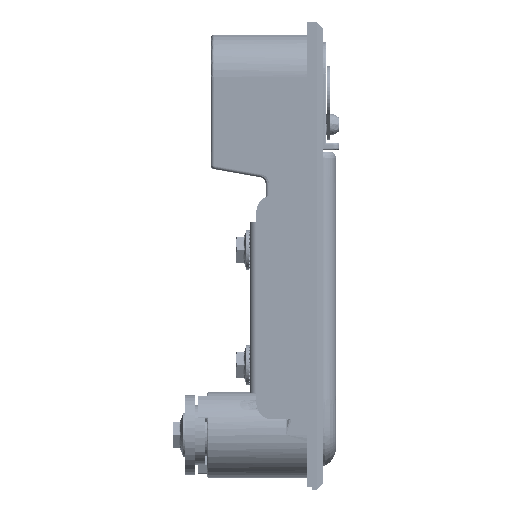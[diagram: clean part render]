
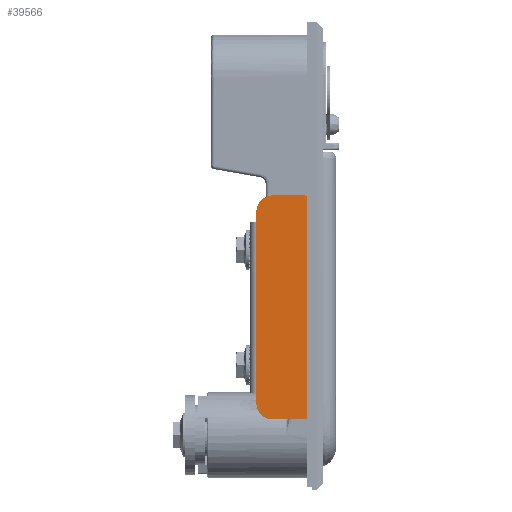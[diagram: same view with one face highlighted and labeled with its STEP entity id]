
A CAD part, left-side view. The second image highlights one B-rep face of the part: STEP entity #39566.
In plain terms, the highlighted planar face has unit normal (-1, 0, 0) as drawn and (1, 0, 0) by its records, which use the part's own axes.
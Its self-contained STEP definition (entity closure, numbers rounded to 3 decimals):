
#1717 = ORIENTED_EDGE ( 'NONE', *, *, #34744, .F. ) ;
#1928 = EDGE_CURVE ( 'NONE', #72063, #139616, #54978, .T. ) ;
#2398 = DIRECTION ( 'NONE',  ( 0., 1., 0. ) ) ;
#4598 = CARTESIAN_POINT ( 'NONE',  ( 15.25, -34., -7.25 ) ) ;
#4984 = CIRCLE ( 'NONE', #127049, 2. ) ;
#5537 = PLANE ( 'NONE',  #96399 ) ;
#7247 = VERTEX_POINT ( 'NONE', #137756 ) ;
#9286 = CIRCLE ( 'NONE', #126722, 2. ) ;
#9796 = EDGE_CURVE ( 'NONE', #139616, #36476, #87029, .T. ) ;
#10216 = CARTESIAN_POINT ( 'NONE',  ( 15.25, -26., -7.25 ) ) ;
#10551 = ORIENTED_EDGE ( 'NONE', *, *, #1928, .F. ) ;
#20051 = VERTEX_POINT ( 'NONE', #89584 ) ;
#21986 = CIRCLE ( 'NONE', #127902, 5. ) ;
#22166 = DIRECTION ( 'NONE',  ( 0., -1., 0. ) ) ;
#24589 = DIRECTION ( 'NONE',  ( 0., 0., 1. ) ) ;
#26392 = VECTOR ( 'NONE', #90267, 1000. ) ;
#27161 = DIRECTION ( 'NONE',  ( 1., 0., 0. ) ) ;
#27209 = CARTESIAN_POINT ( 'NONE',  ( 15.25, 34., 0. ) ) ;
#27888 = FACE_OUTER_BOUND ( 'NONE', #64040, .T. ) ;
#27906 = ORIENTED_EDGE ( 'NONE', *, *, #139108, .F. ) ;
#28378 = EDGE_CURVE ( 'NONE', #134565, #66572, #9286, .T. ) ;
#29490 = VERTEX_POINT ( 'NONE', #82401 ) ;
#31947 = CARTESIAN_POINT ( 'NONE',  ( 15.25, -34., 7.25 ) ) ;
#34744 = EDGE_CURVE ( 'NONE', #29490, #72063, #127019, .T. ) ;
#36476 = VERTEX_POINT ( 'NONE', #10216 ) ;
#38167 = ORIENTED_EDGE ( 'NONE', *, *, #88593, .F. ) ;
#39566 = ADVANCED_FACE ( 'NONE', ( #27888 ), #5537, .T. ) ;
#41314 = DIRECTION ( 'NONE',  ( 0., 0., -1. ) ) ;
#45257 = EDGE_CURVE ( 'NONE', #134565, #20051, #117052, .T. ) ;
#45274 = ORIENTED_EDGE ( 'NONE', *, *, #9796, .F. ) ;
#45800 = CARTESIAN_POINT ( 'NONE',  ( 15.25, 29., -2.25 ) ) ;
#46374 = CARTESIAN_POINT ( 'NONE',  ( 15.25, -34., 9.25 ) ) ;
#47001 = CARTESIAN_POINT ( 'NONE',  ( 15.25, 34., 7.25 ) ) ;
#48503 = LINE ( 'NONE', #46374, #128557 ) ;
#49802 = EDGE_CURVE ( 'NONE', #73043, #29490, #73285, .T. ) ;
#50633 = VECTOR ( 'NONE', #93227, 1000. ) ;
#53187 = CARTESIAN_POINT ( 'NONE',  ( 15.25, 26.12, -7.25 ) ) ;
#54978 = LINE ( 'NONE', #92403, #26392 ) ;
#59108 = ORIENTED_EDGE ( 'NONE', *, *, #45257, .T. ) ;
#64040 = EDGE_LOOP ( 'NONE', ( #27906, #45274, #10551, #1717, #109294, #38167, #133272, #114452, #59108, #123450 ) ) ;
#64951 = CARTESIAN_POINT ( 'NONE',  ( 15.25, -29., -7.25 ) ) ;
#66572 = VERTEX_POINT ( 'NONE', #78069 ) ;
#67096 = EDGE_CURVE ( 'NONE', #78542, #20051, #21986, .T. ) ;
#67620 = VECTOR ( 'NONE', #22166, 1000. ) ;
#71167 = DIRECTION ( 'NONE',  ( 0., 0., -1. ) ) ;
#72063 = VERTEX_POINT ( 'NONE', #80302 ) ;
#73043 = VERTEX_POINT ( 'NONE', #47001 ) ;
#73051 = DIRECTION ( 'NONE',  ( 0., 0., -1. ) ) ;
#73285 = LINE ( 'NONE', #27209, #93866 ) ;
#78069 = CARTESIAN_POINT ( 'NONE',  ( 15.25, -32., 9.25 ) ) ;
#78542 = VERTEX_POINT ( 'NONE', #64951 ) ;
#79370 = CARTESIAN_POINT ( 'NONE',  ( 15.25, -32., 7.25 ) ) ;
#80302 = CARTESIAN_POINT ( 'NONE',  ( 15.25, 29., -7.25 ) ) ;
#81246 = CARTESIAN_POINT ( 'NONE',  ( 15.25, -34., 9.25 ) ) ;
#82401 = CARTESIAN_POINT ( 'NONE',  ( 15.25, 34., -2.25 ) ) ;
#84360 = CARTESIAN_POINT ( 'NONE',  ( 15.25, 32., 7.25 ) ) ;
#84547 = CARTESIAN_POINT ( 'NONE',  ( 15.25, -29., -2.25 ) ) ;
#86484 = DIRECTION ( 'NONE',  ( -1., 0., 0. ) ) ;
#87029 = LINE ( 'NONE', #53187, #67620 ) ;
#88593 = EDGE_CURVE ( 'NONE', #7247, #73043, #4984, .T. ) ;
#89022 = DIRECTION ( 'NONE',  ( 0., 0., 1. ) ) ;
#89584 = CARTESIAN_POINT ( 'NONE',  ( 15.25, -34., -2.25 ) ) ;
#90267 = DIRECTION ( 'NONE',  ( 0., -1., 0. ) ) ;
#92403 = CARTESIAN_POINT ( 'NONE',  ( 15.25, -34., -7.25 ) ) ;
#93227 = DIRECTION ( 'NONE',  ( 0., -1., 0. ) ) ;
#93465 = DIRECTION ( 'NONE',  ( 0., 0., -1. ) ) ;
#93866 = VECTOR ( 'NONE', #71167, 1000. ) ;
#96399 = AXIS2_PLACEMENT_3D ( 'NONE', #81246, #27161, #93465 ) ;
#96623 = DIRECTION ( 'NONE',  ( 0., 0., -1. ) ) ;
#101287 = DIRECTION ( 'NONE',  ( -1., 0., 0. ) ) ;
#103346 = LINE ( 'NONE', #4598, #50633 ) ;
#103943 = AXIS2_PLACEMENT_3D ( 'NONE', #45800, #101287, #89022 ) ;
#109294 = ORIENTED_EDGE ( 'NONE', *, *, #49802, .F. ) ;
#114452 = ORIENTED_EDGE ( 'NONE', *, *, #28378, .F. ) ;
#117052 = LINE ( 'NONE', #117783, #135936 ) ;
#117783 = CARTESIAN_POINT ( 'NONE',  ( 15.25, -34., 0. ) ) ;
#123450 = ORIENTED_EDGE ( 'NONE', *, *, #67096, .F. ) ;
#124084 = DIRECTION ( 'NONE',  ( -1., 0., 0. ) ) ;
#126722 = AXIS2_PLACEMENT_3D ( 'NONE', #79370, #124084, #24589 ) ;
#127019 = CIRCLE ( 'NONE', #103943, 5. ) ;
#127049 = AXIS2_PLACEMENT_3D ( 'NONE', #84360, #86484, #96623 ) ;
#127902 = AXIS2_PLACEMENT_3D ( 'NONE', #84547, #128560, #41314 ) ;
#128557 = VECTOR ( 'NONE', #2398, 1000. ) ;
#128560 = DIRECTION ( 'NONE',  ( -1., 0., 0. ) ) ;
#131480 = EDGE_CURVE ( 'NONE', #66572, #7247, #48503, .T. ) ;
#133272 = ORIENTED_EDGE ( 'NONE', *, *, #131480, .F. ) ;
#134565 = VERTEX_POINT ( 'NONE', #31947 ) ;
#135936 = VECTOR ( 'NONE', #73051, 1000. ) ;
#137756 = CARTESIAN_POINT ( 'NONE',  ( 15.25, 32., 9.25 ) ) ;
#139108 = EDGE_CURVE ( 'NONE', #36476, #78542, #103346, .T. ) ;
#139616 = VERTEX_POINT ( 'NONE', #139700 ) ;
#139700 = CARTESIAN_POINT ( 'NONE',  ( 15.25, 26., -7.25 ) ) ;
